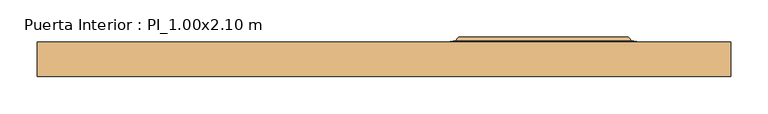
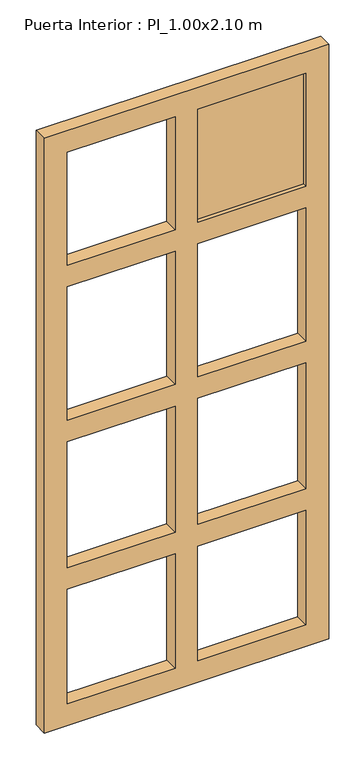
"""IFC4 building model written with IfcOpenShell, lengths in millimetres: door geometry, Puerta Interior : PI_1.00x2.10 m."""

from ifc_helpers import new_model, si_unit, frame, origin, place, context, project, spatial, polyline, ellipse_curve, outline, extrude, source, transform, mapped, element, save
from ifc_brep_helpers import plane_surface, cylinder_surface, advanced_brep


def puerta_interior_pi_1_00x2_10_m_a5189380(model_context):
    return source(origin(), model_context, "Body", "SolidModel", [
        advanced_brep(
        [(117.5, 5.0, 1912.0), (117.5, 0.0, 1912.0), (117.5, 0.0, 1680.0087316), (117.5, 5.0, 1680.0087316), (37.5, -10.0, 1992.0), (37.5, -10.0, 1600.0087316), (37.5, -35.0, 1600.0087316), (37.5, -35.0, 1992.0), (97.5, 0.0, 1932.0), (97.5, 0.0, 1660.0087316), (107.5, 0.0, 1922.0), (107.5, 0.0, 1670.0087316), (112.5, 5.0, 1917.0), (112.5, 5.0, 1675.0087316), (112.5, 0.0, 1675.0087316), (112.5, 0.0, 1917.0), (312.0, 0.0, 1680.0087316), (312.0, 5.0, 1680.0087316), (392.0, -10.0, 1600.0087316), (392.0, -35.0, 1600.0087316), (332.0, 0.0, 1660.0087316), (322.0, 0.0, 1670.0087316), (317.0, 5.0, 1675.0087316), (317.0, 0.0, 1675.0087316), (312.0, 0.0, 1912.0), (312.0, 5.0, 1912.0), (392.0, -10.0, 1992.0), (392.0, -35.0, 1992.0), (332.0, 0.0, 1932.0), (322.0, 0.0, 1922.0), (317.0, 5.0, 1917.0), (317.0, 0.0, 1917.0)],
        [
            (0, 1),
            (1, 2),
            (2, 3),
            (3, 0),
            (4, 5),
            (5, 6),
            (6, 7),
            (7, 4),
            (4, 8),
            (8, 9),
            (9, 5),
            (8, 10, ellipse_curve(frame((102.5, 0.0, 1927.0), z_axis=(-0.7071067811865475, 0.0, -0.7071067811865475), x_axis=(-0.7071067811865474, 0.0, 0.7071067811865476)), 7.0710678, 5.0)),
            (10, 11),
            (11, 9, ellipse_curve(frame((102.5, 0.0, 1665.0087316), z_axis=(-0.7071067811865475, 0.0, 0.7071067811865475), x_axis=(0.7071067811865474, 0.0, 0.7071067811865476)), 7.0710678, 5.0)),
            (12, 13),
            (13, 14),
            (14, 15),
            (15, 12),
            (2, 16),
            (16, 17),
            (17, 3),
            (5, 18),
            (18, 19),
            (19, 6),
            (9, 20),
            (20, 18),
            (11, 21),
            (21, 20, ellipse_curve(frame((327.0, 0.0, 1665.0087316), z_axis=(-0.7071067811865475, 0.0, -0.7071067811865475), x_axis=(-0.7071067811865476, 0.0, 0.7071067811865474)), 7.0710678, 5.0)),
            (13, 22),
            (22, 23),
            (23, 14),
            (16, 24),
            (24, 25),
            (25, 17),
            (18, 26),
            (26, 27),
            (27, 19),
            (20, 28),
            (28, 26),
            (21, 29),
            (29, 28, ellipse_curve(frame((327.0, 0.0, 1927.0), z_axis=(0.7071067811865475, 0.0, -0.7071067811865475), x_axis=(-0.7071067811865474, 0.0, -0.7071067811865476)), 7.0710678, 5.0)),
            (22, 30),
            (30, 31),
            (31, 23),
            (24, 1),
            (0, 25),
            (27, 7),
            (26, 4),
            (28, 8),
            (29, 10),
            (31, 15),
            (30, 12),
        ],
        [
            plane_surface(frame((117.5, 5.0, 1912.0), z_axis=(1.0, 0.0, 0.0), x_axis=(0.0, 0.0, -1.0))),
            plane_surface(frame((37.5, -35.0, 1992.0), z_axis=(-1.0, 0.0, 0.0), x_axis=(0.0, 0.0, -1.0))),
            plane_surface(frame((37.5, -10.0, 1992.0), z_axis=(-0.1643989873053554, 0.9863939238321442, 0.0), x_axis=(0.0, 0.0, -1.0))),
            cylinder_surface(frame((102.5, 0.0, 1992.0), z_axis=(0.0, 0.0, 1.0), x_axis=(0.0, -1.0, 0.0)), 5.0),
            plane_surface(frame((112.5, 0.0, 1917.0), z_axis=(-1.0, 0.0, 0.0), x_axis=(0.0, 0.0, -1.0))),
            plane_surface(frame((117.5, 5.0, 1680.0087316), z_axis=(0.0, 0.0, 1.0), x_axis=(1.0, 0.0, 0.0))),
            plane_surface(frame((37.5, -35.0, 1600.0087316), z_axis=(0.0, 0.0, -1.0), x_axis=(1.0, 0.0, 0.0))),
            plane_surface(frame((37.5, -10.0, 1600.0087316), z_axis=(0.0, 0.9863939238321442, -0.1643989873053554), x_axis=(1.0, 0.0, 0.0))),
            cylinder_surface(frame((37.5, 0.0, 1665.0087316), z_axis=(-1.0, 0.0, 0.0), x_axis=(0.0, -1.0, 0.0)), 5.0),
            plane_surface(frame((112.5, 0.0, 1675.0087316), z_axis=(0.0, 0.0, -1.0), x_axis=(1.0, 0.0, 0.0))),
            plane_surface(frame((312.0, 5.0, 1680.0087316), z_axis=(-1.0, 0.0, 0.0), x_axis=(0.0, 0.0, 1.0))),
            plane_surface(frame((392.0, -35.0, 1600.0087316), z_axis=(1.0, 0.0, 0.0), x_axis=(0.0, 0.0, 1.0))),
            plane_surface(frame((392.0, -10.0, 1600.0087316), z_axis=(0.1643989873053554, 0.9863939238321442, 0.0), x_axis=(0.0, 0.0, 1.0))),
            cylinder_surface(frame((327.0, 0.0, 1600.0087316), z_axis=(0.0, 0.0, -1.0), x_axis=(0.0, -1.0, 0.0)), 5.0),
            plane_surface(frame((317.0, 0.0, 1675.0087316), z_axis=(1.0, 0.0, 0.0), x_axis=(0.0, 0.0, 1.0))),
            plane_surface(frame((312.0, 5.0, 1912.0), z_axis=(0.0, 0.0, -1.0), x_axis=(-1.0, 0.0, 0.0))),
            plane_surface(frame((312.0, -35.0, 1912.0), z_axis=(0.0, -1.0, 0.0), x_axis=(-1.0, 0.0, 0.0))),
            plane_surface(frame((392.0, -35.0, 1992.0), z_axis=(0.0, 0.0, 1.0), x_axis=(-1.0, 0.0, 0.0))),
            plane_surface(frame((392.0, -10.0, 1992.0), z_axis=(0.0, 0.9863939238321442, 0.1643989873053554), x_axis=(-1.0, 0.0, 0.0))),
            cylinder_surface(frame((392.0, 0.0, 1927.0), z_axis=(1.0, 0.0, 0.0), x_axis=(0.0, -1.0, 0.0)), 5.0),
            plane_surface(frame((322.0, 0.0, 1922.0), z_axis=(0.0, 1.0, 0.0), x_axis=(-1.0, 0.0, 0.0))),
            plane_surface(frame((317.0, 0.0, 1917.0), z_axis=(0.0, 0.0, 1.0), x_axis=(-1.0, 0.0, 0.0))),
            plane_surface(frame((317.0, 5.0, 1917.0), z_axis=(0.0, 1.0, 0.0), x_axis=(-1.0, 0.0, 0.0))),
            plane_surface(frame((117.5, 0.0, 1912.0), z_axis=(0.0, 1.0, 0.0), x_axis=(0.0, 0.0, -1.0))),
        ],
        [
            (0, [[1, 2, 3, 4]]),
            (1, [[5, 6, 7, 8]]),
            (2, [[9, 10, 11, -5]]),
            (3, [[12, 13, 14, -10]]),
            (4, [[15, 16, 17, 18]]),
            (5, [[-3, 19, 20, 21]]),
            (6, [[22, 23, 24, -6]]),
            (7, [[25, 26, -22, -11]]),
            (8, [[27, 28, -25, -14]]),
            (9, [[29, 30, 31, -16]]),
            (10, [[-20, 32, 33, 34]]),
            (11, [[35, 36, 37, -23]]),
            (12, [[38, 39, -35, -26]]),
            (13, [[40, 41, -38, -28]]),
            (14, [[42, 43, 44, -30]]),
            (15, [[-33, 45, -1, 46]]),
            (16, [[-24, -37, 47, -7]]),
            (17, [[-47, -36, 48, -8]]),
            (18, [[-48, -39, 49, -9]]),
            (19, [[-49, -41, 50, -12]]),
            (20, [[-50, -40, -27, -13], [-31, -44, 51, -17]]),
            (21, [[-51, -43, 52, -18]]),
            (22, [[-52, -42, -29, -15], [-21, -34, -46, -4]]),
            (23, [[-45, -32, -19, -2]]),
        ],
    ),
        extrude(outline(polyline([(2067.0, 467.0), (2067.0, -467.0), (2.5, -467.0), (2.5, 467.0), (2067.0, 467.0)]), holes=[polyline([(987.5174632, 392.0), (550.0087316, 392.0), (550.0087316, 37.5), (987.5174632, 37.5), (987.5174632, 392.0)]), polyline([(987.5174632, -37.5), (550.0087316, -37.5), (550.0087316, -392.0), (987.5174632, -392.0), (987.5174632, -37.5)]), polyline([(1062.5174632, 37.5), (1525.0087316, 37.5), (1525.0087316, 392.0), (1062.5174632, 392.0), (1062.5174632, 37.5)]), polyline([(475.0087316, 37.5), (475.0087316, 392.0), (77.5, 392.0), (77.5, 37.5), (475.0087316, 37.5)]), polyline([(475.0087316, -37.5), (77.5, -37.5), (77.5, -392.0), (475.0087316, -392.0), (475.0087316, -37.5)]), polyline([(1600.0087316, -37.5), (1600.0087316, -392.0), (1992.0, -392.0), (1992.0, -37.5), (1600.0087316, -37.5)]), polyline([(1525.0087316, -37.5), (1062.5174632, -37.5), (1062.5174632, -392.0), (1525.0087316, -392.0), (1525.0087316, -37.5)]), polyline([(1600.0087316, 37.5), (1992.0, 37.5), (1992.0, 392.0), (1600.0087316, 392.0), (1600.0087316, 37.5)])]), frame((0.0, -48.203125, 0.0), z_axis=(0.0, 1.0, 0.0), x_axis=(0.0, 0.0, 1.0)), (0.0, 0.0, 1.0), 46.4),
    ])


if __name__ == "__main__":
    model = new_model("IFC4")
    model_context = context("Model", 3, world=origin())
    ifc_project = project(units=[si_unit("LENGTHUNIT", "METRE", prefix="MILLI")], contexts=[model_context])
    site = spatial("IfcSite", under=ifc_project)
    building = spatial("IfcBuilding", under=site)
    placement = place(None, origin())
    puerta_interior_pi_1_00x2_10_m_shape = puerta_interior_pi_1_00x2_10_m_a5189380(model_context)
    element("IfcDoor", 1, ObjectType="Puerta Interior : PI_1.00x2.10 m", at=placement, inside=building, context=model_context, shape_type="MappedRepresentation", body=[
        mapped(puerta_interior_pi_1_00x2_10_m_shape, transform((0.0, 0.0, 0.0), x_axis=(1.0, 0.0, 0.0), y_axis=(0.0, 1.0, 0.0), z_axis=(0.0, 0.0, 1.0))),
    ])
    save(model, "model.ifc")
